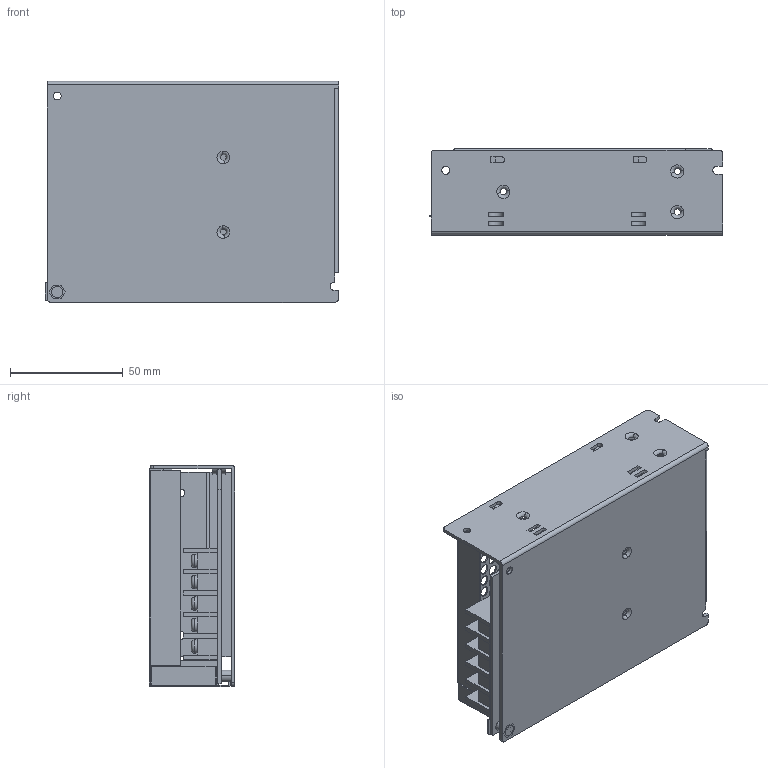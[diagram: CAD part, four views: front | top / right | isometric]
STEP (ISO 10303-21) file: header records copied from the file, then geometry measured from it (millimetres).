
FILE_DESCRIPTION(('Creo Elements/Direct Modeling STEP Export'),'2;1');
FILE_NAME('SD-65.stp','2018-03-07T10:46:47',(''),(''),'PTC Creo Elements/Direct Modeling STEP processor for AP214 (Solid Model)','PTC Creo Elements/Direct Modeling 19.0 09-May-2014 (C) Parametric Technology GmbH','');
FILE_SCHEMA(('AUTOMOTIVE_DESIGN { 1 0 10303 214 1 1 1 1 }'));
Length unit declared in the file: millimetre
Products named in the file (7): RS-75-CASE-D_8.PRT; CUUU_2.PRT; RS-75-PCB_2.PRT; RS-75-CASE-T_5.PRT; TN1_2.PRT; RS-75_ASM_4.ASM; SD-65
Assembly tree (6 placements, depth 3):
  SD-65
    RS-75_ASM_4.ASM
      TN1_2.PRT
      RS-75-CASE-T_5.PRT
      RS-75-PCB_2.PRT
      CUUU_2.PRT
      RS-75-CASE-D_8.PRT
Bounding box: 129.7 x 38 x 98 mm (x, y, z)
Volume: 62853.6 mm3; surface area: 96922.9 mm2
Topology: 5 solids, 5 shells, 1268 faces, 3677 edges, 2378 vertices
Faces by surface type: cylinder 943, plane 275, bspline 30, torus 20
Entity records: 42691 total; most frequent: CARTESIAN_POINT 7632, ORIENTED_EDGE 7354, DIRECTION 6341, EDGE_CURVE 3677, VERTEX_POINT 2378, AXIS2_PLACEMENT_3D 2343, EDGE_LOOP 2113, VECTOR 1655
